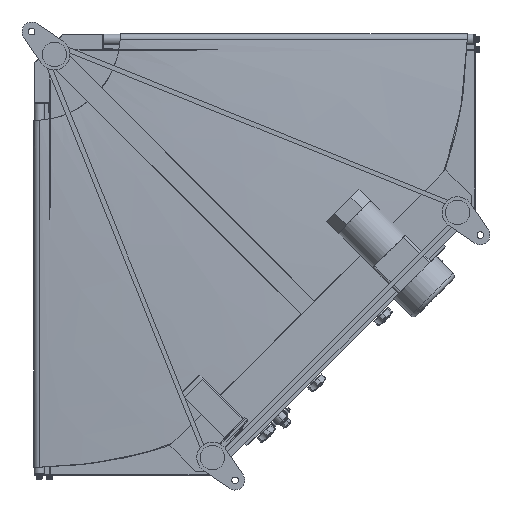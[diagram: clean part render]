
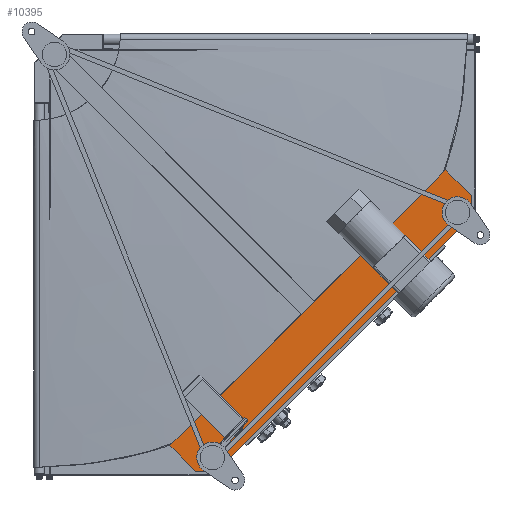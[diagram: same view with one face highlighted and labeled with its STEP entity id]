
A CAD part, front view. The second image highlights one B-rep face of the part: STEP entity #10395.
In plain terms, the highlighted planar face has unit normal (0, -1, 0).
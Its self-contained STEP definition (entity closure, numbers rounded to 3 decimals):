
#456 = AXIS2_PLACEMENT_3D ( 'NONE', #22699, #6448, #13243 ) ;
#946 = EDGE_CURVE ( 'NONE', #38547, #32786, #6513, .T. ) ;
#3010 = VECTOR ( 'NONE', #37287, 1000. ) ;
#3072 = DIRECTION ( 'NONE',  ( 0.707, 0., 0.707 ) ) ;
#4515 = VECTOR ( 'NONE', #3072, 1000. ) ;
#4712 = FACE_OUTER_BOUND ( 'NONE', #29140, .T. ) ;
#5235 = CARTESIAN_POINT ( 'NONE',  ( 358.15, -167.5, -856.66 ) ) ;
#5486 = CARTESIAN_POINT ( 'NONE',  ( 807.162, -167.5, -266.226 ) ) ;
#6422 = VECTOR ( 'NONE', #21370, 1000. ) ;
#6448 = DIRECTION ( 'NONE',  ( 0., 1., 0. ) ) ;
#6513 = LINE ( 'NONE', #12516, #4515 ) ;
#10395 = ADVANCED_FACE ( 'NONE', ( #4712 ), #16014, .F. ) ;
#10668 = EDGE_CURVE ( 'NONE', #25040, #38547, #20665, .T. ) ;
#12191 = CARTESIAN_POINT ( 'NONE',  ( 315.723, -167.5, -856.66 ) ) ;
#12516 = CARTESIAN_POINT ( 'NONE',  ( 266.226, -167.5, -807.162 ) ) ;
#12596 = VERTEX_POINT ( 'NONE', #5235 ) ;
#13231 = ORIENTED_EDGE ( 'NONE', *, *, #29115, .F. ) ;
#13243 = DIRECTION ( 'NONE',  ( 0., 0., 1. ) ) ;
#16014 = PLANE ( 'NONE',  #456 ) ;
#20409 = LINE ( 'NONE', #5486, #39802 ) ;
#20665 = LINE ( 'NONE', #40921, #34628 ) ;
#21370 = DIRECTION ( 'NONE',  ( -1., 0., 0. ) ) ;
#21905 = LINE ( 'NONE', #40358, #3010 ) ;
#22699 = CARTESIAN_POINT ( 'NONE',  ( 0., -167.5, 0. ) ) ;
#22936 = CARTESIAN_POINT ( 'NONE',  ( 315.723, -167.5, -856.66 ) ) ;
#22971 = ORIENTED_EDGE ( 'NONE', *, *, #10668, .F. ) ;
#24112 = CARTESIAN_POINT ( 'NONE',  ( 856.66, -167.5, -358.15 ) ) ;
#24318 = CARTESIAN_POINT ( 'NONE',  ( 807.162, -167.5, -266.226 ) ) ;
#25040 = VERTEX_POINT ( 'NONE', #22936 ) ;
#25407 = ORIENTED_EDGE ( 'NONE', *, *, #32852, .F. ) ;
#25594 = CARTESIAN_POINT ( 'NONE',  ( 266.226, -167.5, -807.162 ) ) ;
#26671 = VECTOR ( 'NONE', #31519, 1000. ) ;
#27162 = EDGE_CURVE ( 'NONE', #32786, #33769, #20409, .T. ) ;
#28098 = VERTEX_POINT ( 'NONE', #24112 ) ;
#29115 = EDGE_CURVE ( 'NONE', #12596, #25040, #40262, .T. ) ;
#29140 = EDGE_LOOP ( 'NONE', ( #29450, #30226, #32847, #22971, #13231, #25407 ) ) ;
#29450 = ORIENTED_EDGE ( 'NONE', *, *, #35232, .F. ) ;
#30226 = ORIENTED_EDGE ( 'NONE', *, *, #27162, .F. ) ;
#31288 = DIRECTION ( 'NONE',  ( -0.707, 0., 0.707 ) ) ;
#31322 = DIRECTION ( 'NONE',  ( 0.707, 0., -0.707 ) ) ;
#31519 = DIRECTION ( 'NONE',  ( 0., 0., -1. ) ) ;
#32075 = CARTESIAN_POINT ( 'NONE',  ( 856.66, -167.5, -358.15 ) ) ;
#32786 = VERTEX_POINT ( 'NONE', #24318 ) ;
#32847 = ORIENTED_EDGE ( 'NONE', *, *, #946, .F. ) ;
#32852 = EDGE_CURVE ( 'NONE', #28098, #12596, #21905, .T. ) ;
#33769 = VERTEX_POINT ( 'NONE', #37159 ) ;
#34628 = VECTOR ( 'NONE', #31288, 1000. ) ;
#35196 = LINE ( 'NONE', #32075, #26671 ) ;
#35232 = EDGE_CURVE ( 'NONE', #33769, #28098, #35196, .T. ) ;
#37159 = CARTESIAN_POINT ( 'NONE',  ( 856.66, -167.5, -315.723 ) ) ;
#37287 = DIRECTION ( 'NONE',  ( -0.707, 0., -0.707 ) ) ;
#38547 = VERTEX_POINT ( 'NONE', #25594 ) ;
#39802 = VECTOR ( 'NONE', #31322, 1000. ) ;
#40262 = LINE ( 'NONE', #12191, #6422 ) ;
#40358 = CARTESIAN_POINT ( 'NONE',  ( 358.15, -167.5, -856.66 ) ) ;
#40921 = CARTESIAN_POINT ( 'NONE',  ( 266.226, -167.5, -807.162 ) ) ;
